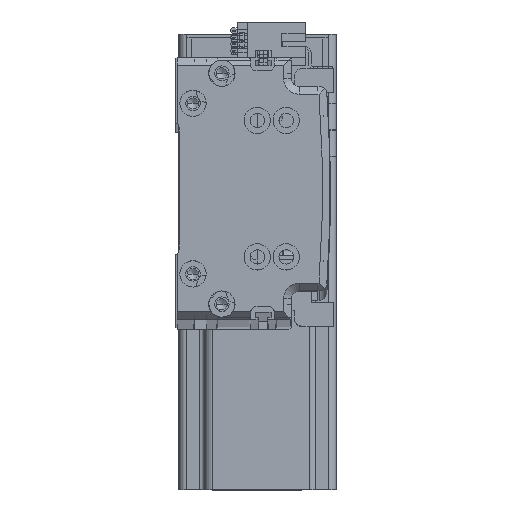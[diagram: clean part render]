
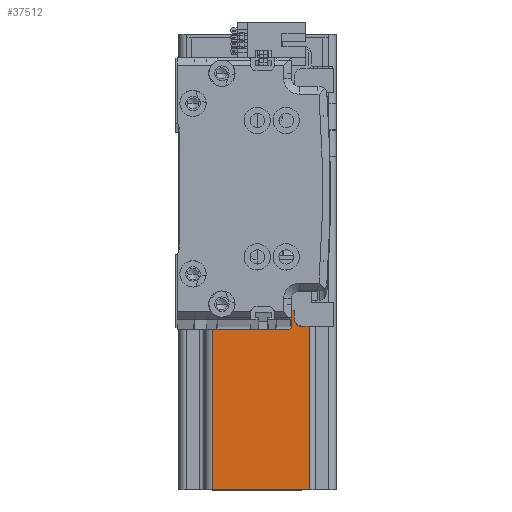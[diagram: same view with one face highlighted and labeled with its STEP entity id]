
A CAD part, top view. The second image highlights one B-rep face of the part: STEP entity #37512.
In plain terms, the highlighted planar face has unit normal (0, 0, 1) as drawn and (-1, 0, 0) by its records, which use the part's own axes.
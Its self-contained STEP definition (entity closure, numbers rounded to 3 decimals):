
#378 = DIRECTION ( 'NONE',  ( 0., 0., -1. ) ) ;
#932 = DIRECTION ( 'NONE',  ( 0., 0., 1. ) ) ;
#1197 = FACE_OUTER_BOUND ( 'NONE', #8075, .T. ) ;
#1914 = EDGE_CURVE ( 'NONE', #50643, #29317, #16212, .T. ) ;
#2558 = DIRECTION ( 'NONE',  ( 0., -1., 0. ) ) ;
#3747 = VECTOR ( 'NONE', #19604, 1000. ) ;
#3777 = CARTESIAN_POINT ( 'NONE',  ( -30., -27., 10. ) ) ;
#4961 = VECTOR ( 'NONE', #2558, 1000. ) ;
#5450 = CARTESIAN_POINT ( 'NONE',  ( -30., -17., 137. ) ) ;
#5712 = ORIENTED_EDGE ( 'NONE', *, *, #25090, .T. ) ;
#7568 = VECTOR ( 'NONE', #39164, 1000. ) ;
#8075 = EDGE_LOOP ( 'NONE', ( #29672, #5712, #9581, #43596, #45558, #44902, #52380, #46854 ) ) ;
#8814 = DIRECTION ( 'NONE',  ( 0., 0., 1. ) ) ;
#9542 = CARTESIAN_POINT ( 'NONE',  ( -30., 27., 0. ) ) ;
#9581 = ORIENTED_EDGE ( 'NONE', *, *, #49905, .F. ) ;
#10696 = VECTOR ( 'NONE', #56356, 1000. ) ;
#11373 = EDGE_CURVE ( 'NONE', #29317, #39171, #49596, .T. ) ;
#12272 = LINE ( 'NONE', #51213, #10696 ) ;
#13364 = CARTESIAN_POINT ( 'NONE',  ( -30., -27., 0. ) ) ;
#13611 = CARTESIAN_POINT ( 'NONE',  ( -30., -30., 137. ) ) ;
#14465 = EDGE_CURVE ( 'NONE', #50447, #53551, #35624, .T. ) ;
#14598 = CARTESIAN_POINT ( 'NONE',  ( -30., -30., 0. ) ) ;
#16212 = LINE ( 'NONE', #14598, #55443 ) ;
#17042 = VERTEX_POINT ( 'NONE', #53433 ) ;
#17340 = LINE ( 'NONE', #34814, #3747 ) ;
#18196 = AXIS2_PLACEMENT_3D ( 'NONE', #19579, #55377, #24747 ) ;
#19579 = CARTESIAN_POINT ( 'NONE',  ( -30., -30., 137. ) ) ;
#19604 = DIRECTION ( 'NONE',  ( 0., 1., 0. ) ) ;
#21292 = CARTESIAN_POINT ( 'NONE',  ( -30., -27., 137. ) ) ;
#22937 = CARTESIAN_POINT ( 'NONE',  ( -30., -17., 10. ) ) ;
#24305 = PLANE ( 'NONE',  #18196 ) ;
#24747 = DIRECTION ( 'NONE',  ( 0., 0., -1. ) ) ;
#25090 = EDGE_CURVE ( 'NONE', #25989, #36396, #12272, .T. ) ;
#25989 = VERTEX_POINT ( 'NONE', #22937 ) ;
#28804 = EDGE_CURVE ( 'NONE', #25989, #39171, #44152, .T. ) ;
#29317 = VERTEX_POINT ( 'NONE', #13364 ) ;
#29672 = ORIENTED_EDGE ( 'NONE', *, *, #28804, .F. ) ;
#33164 = CARTESIAN_POINT ( 'NONE',  ( -30., -30., 10. ) ) ;
#34814 = CARTESIAN_POINT ( 'NONE',  ( -30., 30., 10. ) ) ;
#35624 = LINE ( 'NONE', #44612, #61205 ) ;
#36070 = LINE ( 'NONE', #36181, #46430 ) ;
#36181 = CARTESIAN_POINT ( 'NONE',  ( -30., 27., 137. ) ) ;
#36396 = VERTEX_POINT ( 'NONE', #5450 ) ;
#37512 = ADVANCED_FACE ( 'NONE', ( #1197 ), #24305, .F. ) ;
#39164 = DIRECTION ( 'NONE',  ( 0., -1., 0. ) ) ;
#39171 = VERTEX_POINT ( 'NONE', #3777 ) ;
#42607 = EDGE_CURVE ( 'NONE', #17042, #50643, #36070, .T. ) ;
#43330 = CARTESIAN_POINT ( 'NONE',  ( -30., 20., 10. ) ) ;
#43596 = ORIENTED_EDGE ( 'NONE', *, *, #14465, .F. ) ;
#44152 = LINE ( 'NONE', #33164, #4961 ) ;
#44612 = CARTESIAN_POINT ( 'NONE',  ( -30., 20., 10. ) ) ;
#44902 = ORIENTED_EDGE ( 'NONE', *, *, #42607, .T. ) ;
#45558 = ORIENTED_EDGE ( 'NONE', *, *, #53191, .T. ) ;
#46430 = VECTOR ( 'NONE', #378, 1000. ) ;
#46854 = ORIENTED_EDGE ( 'NONE', *, *, #11373, .T. ) ;
#47939 = VECTOR ( 'NONE', #932, 1000. ) ;
#48406 = LINE ( 'NONE', #13611, #7568 ) ;
#49596 = LINE ( 'NONE', #21292, #47939 ) ;
#49905 = EDGE_CURVE ( 'NONE', #53551, #36396, #48406, .T. ) ;
#50447 = VERTEX_POINT ( 'NONE', #43330 ) ;
#50643 = VERTEX_POINT ( 'NONE', #9542 ) ;
#50668 = DIRECTION ( 'NONE',  ( 0., -1., 0. ) ) ;
#51213 = CARTESIAN_POINT ( 'NONE',  ( -30., -17., 137. ) ) ;
#52380 = ORIENTED_EDGE ( 'NONE', *, *, #1914, .T. ) ;
#53191 = EDGE_CURVE ( 'NONE', #50447, #17042, #17340, .T. ) ;
#53433 = CARTESIAN_POINT ( 'NONE',  ( -30., 27., 10. ) ) ;
#53551 = VERTEX_POINT ( 'NONE', #58711 ) ;
#55377 = DIRECTION ( 'NONE',  ( 1., 0., 0. ) ) ;
#55443 = VECTOR ( 'NONE', #50668, 1000. ) ;
#56356 = DIRECTION ( 'NONE',  ( 0., 0., 1. ) ) ;
#58711 = CARTESIAN_POINT ( 'NONE',  ( -30., 20., 137. ) ) ;
#61205 = VECTOR ( 'NONE', #8814, 1000. ) ;
